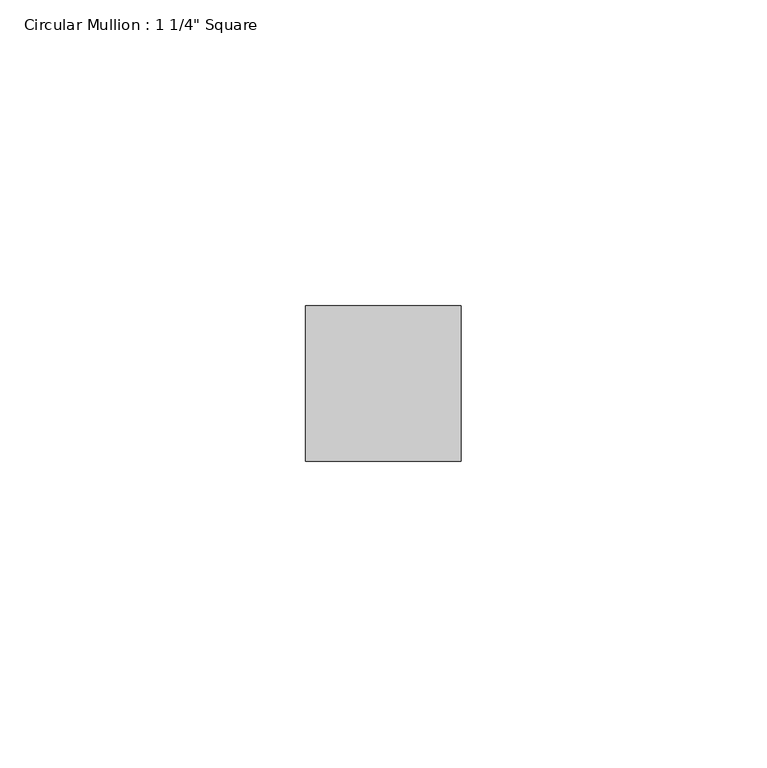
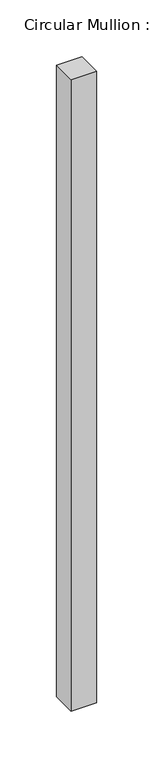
"""IFC4 building model written with IfcOpenShell, lengths in millimetres: member geometry."""

from ifc_helpers import new_model, si_unit, frame, origin, place, context, project, spatial, polyline, outline, extrude, source, transform, mapped, element, save


def member_f7ae4650(model_context):
    return source(origin(), model_context, "Body", "SweptSolid", [
        extrude(outline(polyline([(12.7, 12.7), (12.7, -12.7), (-12.7, -12.7), (-12.7, 12.7), (12.7, 12.7)])), frame((0.0, 0.0, -676.4411435), z_axis=(0.0, 0.0, 1.0), x_axis=(1.0, 0.0, 0.0)), (0.0, 0.0, 1.0), 676.4411435),
    ])


if __name__ == "__main__":
    model = new_model("IFC4")
    model_context = context("Model", 3, world=origin())
    ifc_project = project(units=[si_unit("LENGTHUNIT", "METRE", prefix="MILLI")], contexts=[model_context])
    site = spatial("IfcSite", under=ifc_project)
    building = spatial("IfcBuilding", under=site)
    placement = place(None, origin())
    member_shape = member_f7ae4650(model_context)
    element("IfcMember", 1, ObjectType="Circular Mullion : 1 1/4\" Square", at=placement, inside=building, context=model_context, shape_type="MappedRepresentation", body=[
        mapped(member_shape, transform((0.0, 0.0, 0.0), x_axis=(1.0, 0.0, 0.0), y_axis=(0.0, 1.0, 0.0), z_axis=(0.0, 0.0, 1.0))),
    ])
    save(model, "model.ifc")
